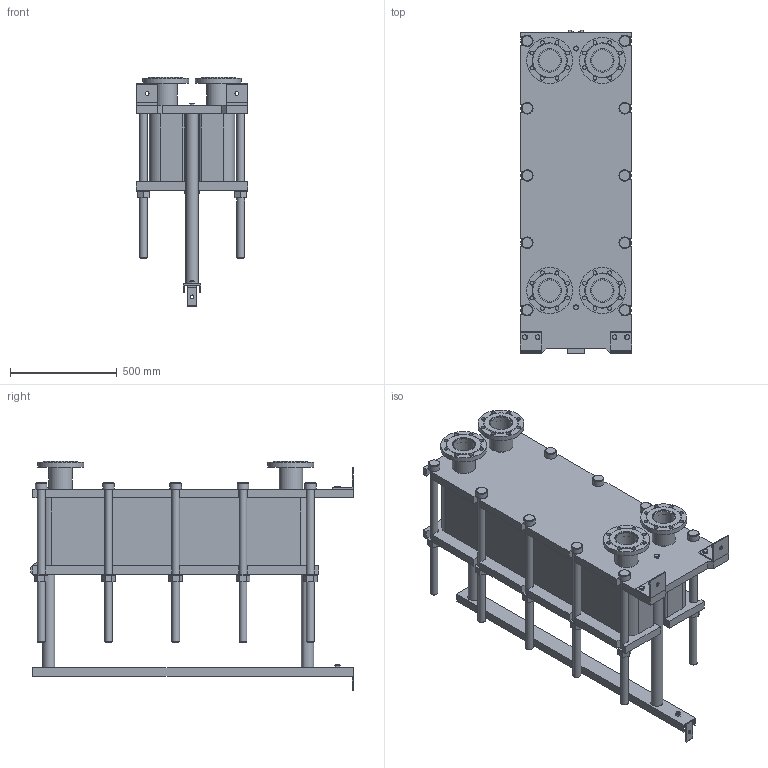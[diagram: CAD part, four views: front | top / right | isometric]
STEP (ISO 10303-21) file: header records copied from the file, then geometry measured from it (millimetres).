
FILE_DESCRIPTION(/* description */ (''),/* implementation_level */ '2;1');
FILE_NAME(/* name */ 'C:\Users\zhuro\Desktop\ENCO\TO\ЭН-04\ЭН-0,5-04-92-1.stp',/* time_stamp */ '2022-06-06T10:53:05+03:00',/* author */ ('zhuro'),/* organization */ (''),/* preprocessor_version */ 'ST-DEVELOPER v18.1',/* originating_system */ 'Autodesk Inventor 2022',/* authorisation */ '');
FILE_SCHEMA (('AUTOMOTIVE_DESIGN { 1 0 10303 214 3 1 1 }'));
Length unit declared in the file: millimetre
Products named in the file (1): ЭН-0,5-04-92-1
Bounding box: 520 x 1510 x 1071 mm (x, y, z)
Volume: 229397772.1 mm3; surface area: 8179341.2 mm2
Topology: 45 solids, 45 shells, 668 faces, 1611 edges, 1048 vertices
Faces by surface type: plane 457, cylinder 166, cone 39, torus 6
Full cylindrical faces by diameter (mm): 8 x4, 10 x2, 16 x8, 18 x35, 36 x25, 40 x2, 42 x1, 45 x4, 54 x10, 57 x2, 60 x10, 68 x2, 100 x4, 110 x8, 215 x4
Entity records: 23607 total; most frequent: CARTESIAN_POINT 7348, DIRECTION 3371, ORIENTED_EDGE 3142, EDGE_CURVE 1571, AXIS2_PLACEMENT_3D 1199, VERTEX_POINT 1044, LINE 973, VECTOR 973
